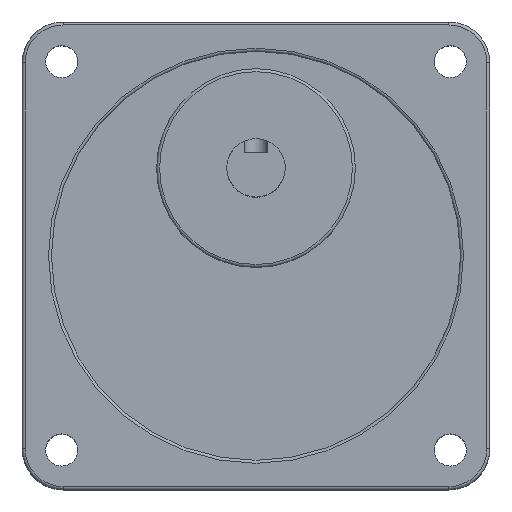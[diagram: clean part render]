
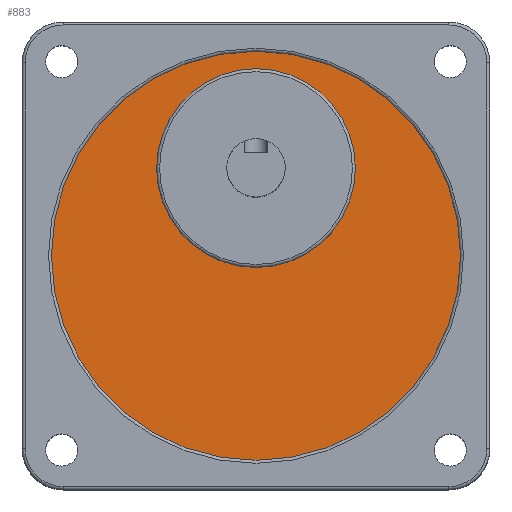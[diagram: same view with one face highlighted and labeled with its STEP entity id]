
A CAD part, top view. The second image highlights one B-rep face of the part: STEP entity #883.
In plain terms, the highlighted planar face has unit normal (0, 0, 1).
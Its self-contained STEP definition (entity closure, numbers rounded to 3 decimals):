
#476=CARTESIAN_POINT('',(35.0,0.,41.8));
#477=VERTEX_POINT('',#476);
#478=CARTESIAN_POINT('',(0.0,0.0,41.8));
#479=DIRECTION('',(0.0,0.0,1.0));
#480=DIRECTION('',(-1.0,0.0,0.0));
#481=AXIS2_PLACEMENT_3D('',#478,#479,#480);
#482=CIRCLE('',#481,35.0);
#483=EDGE_CURVE('',#477,#477,#482,.T.);
#833=CARTESIAN_POINT('',(17.0,15.,41.8));
#834=VERTEX_POINT('',#833);
#835=CARTESIAN_POINT('',(0.0,15.0,41.8));
#836=DIRECTION('',(0.0,0.0,-1.0));
#837=DIRECTION('',(-1.0,0.0,0.0));
#838=AXIS2_PLACEMENT_3D('',#835,#836,#837);
#839=CIRCLE('',#838,17.0);
#840=EDGE_CURVE('',#834,#834,#839,.T.);
#872=CARTESIAN_POINT('',(0.0,0.0,41.8));
#873=DIRECTION('',(0.0,0.0,-1.0));
#874=DIRECTION('',(-1.0,0.0,0.0));
#875=AXIS2_PLACEMENT_3D('',#872,#873,#874);
#876=PLANE('',#875);
#877=ORIENTED_EDGE('',*,*,#483,.T.);
#878=EDGE_LOOP('',(#877));
#879=FACE_OUTER_BOUND('',#878,.T.);
#880=ORIENTED_EDGE('',*,*,#840,.T.);
#881=EDGE_LOOP('',(#880));
#882=FACE_BOUND('',#881,.T.);
#883=ADVANCED_FACE('',(#879,#882),#876,.F.);
